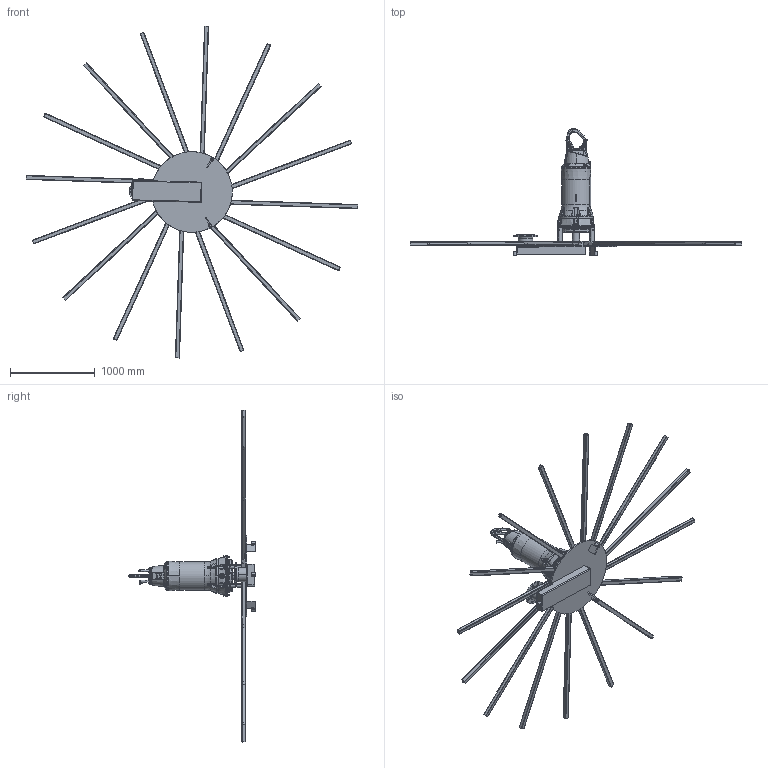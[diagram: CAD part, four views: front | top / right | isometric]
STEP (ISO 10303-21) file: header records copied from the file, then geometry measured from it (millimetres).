
FILE_DESCRIPTION (( 'STEP AP214' ), '1' );
FILE_NAME ('PE4_XTAK1200_A.STEP', '2017-05-30T11:21:53', ( '' ), ( '' ), 'SwSTEP 2.0', 'SolidWorks 2017', '' );
FILE_SCHEMA (( 'AUTOMOTIVE_DESIGN' ));
Length unit declared in the file: millimetre
Products named in the file (1): PE4_XTAK1200_A
Bounding box: 3907.61 x 1497.48 x 3907.61 mm (x, y, z)
Volume: 143899154.9 mm3; surface area: 13546971.5 mm2
Topology: 17 solids, 90 shells, 5435 faces, 13759 edges, 8622 vertices
Faces by surface type: plane 2680, cylinder 1342, bspline 762, torus 321, cone 280, sphere 50
Entity records: 278147 total; most frequent: CARTESIAN_POINT 91558, ORIENTED_EDGE 27338, DIRECTION 24927, EDGE_CURVE 13669, VERTEX_POINT 8614, AXIS2_PLACEMENT_3D 8526, VECTOR 7875, LINE 7875
